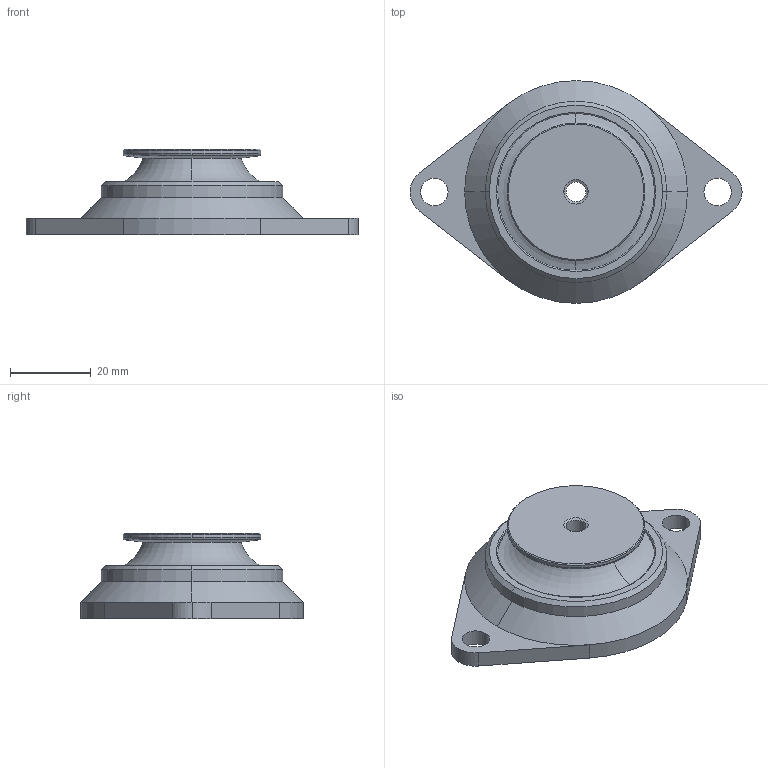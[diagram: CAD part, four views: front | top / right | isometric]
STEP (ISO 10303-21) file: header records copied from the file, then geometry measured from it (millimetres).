
FILE_DESCRIPTION(('STEP AP214'),'1');
FILE_NAME('U:/Inhalte (Daten)/Content neue Seite/CAD Files/EluFlex_50_SF.stp','2014-08-27T14:34:20',(' '),(' '),'Spatial InterOp 3D',' ',' ');
FILE_SCHEMA(('automotive_design'));
Length unit declared in the file: millimetre
Products named in the file (1): 1
Bounding box: 82 x 55 x 21 mm (x, y, z)
Volume: 28747.5 mm3; surface area: 12461.6 mm2
Topology: 1 solids, 1 shells, 69 faces, 168 edges, 104 vertices
Faces by surface type: cylinder 24, torus 20, cone 14, plane 11
Entity records: 2095 total; most frequent: DIRECTION 426, CARTESIAN_POINT 342, ORIENTED_EDGE 336, AXIS2_PLACEMENT_3D 188, EDGE_CURVE 168, CIRCLE 118, VERTEX_POINT 104, EDGE_LOOP 78
